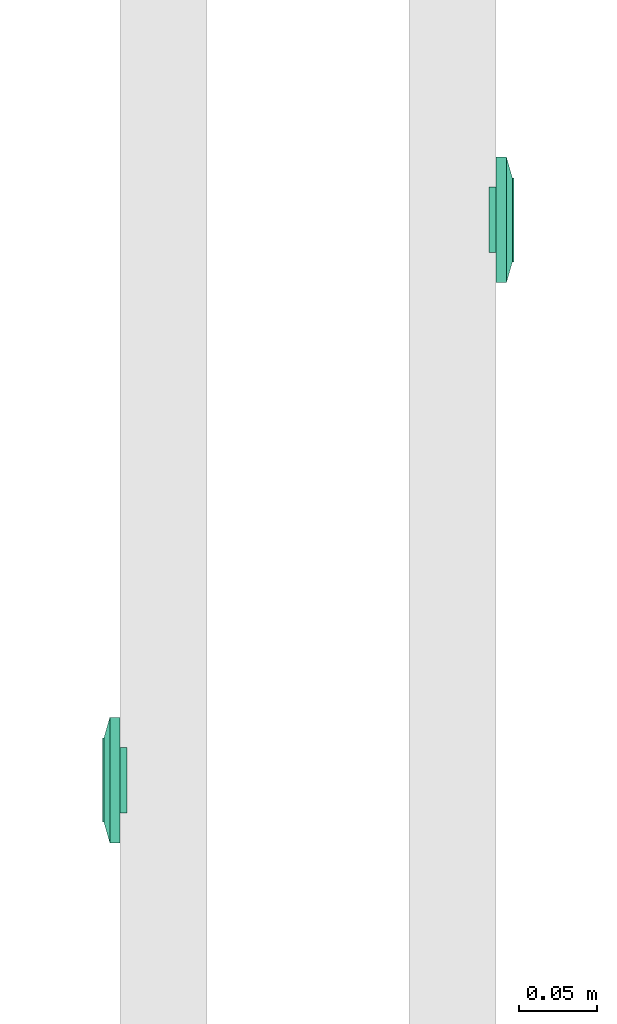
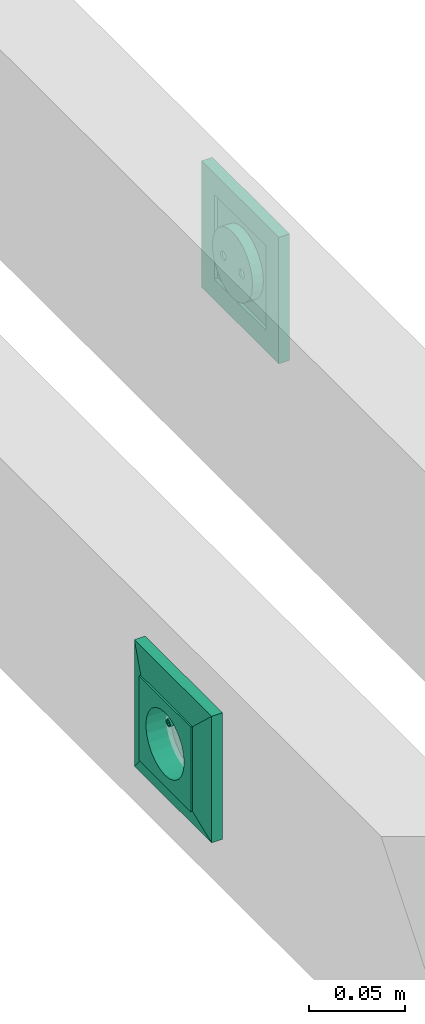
# One storey, part 54 of 166: 2 flow terminals.
"""IFC2X3 building model written with IfcOpenShell, lengths in metres."""

from ifc_helpers import new_model, entity, si_unit, converted_unit, derived_unit, direction, frame, origin, place, context, subcontext, project, spatial, face_set, surface_model, source, transform, mapped, type_object, type_shapes, element, save


model = new_model("IFC2X3")

# Units and contexts
model_context = context("Model", 3, precision=1e-05, world=origin(), true_north=direction((6.12303176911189e-17, 1.0)))
body_context = subcontext(model_context, "Body", "Model", "MODEL_VIEW")
ifc_project = project(units=[si_unit("LENGTHUNIT", "METRE"), si_unit("AREAUNIT", "SQUARE_METRE"), si_unit("VOLUMEUNIT", "CUBIC_METRE"), converted_unit("PLANEANGLEUNIT", "DEGREE", entity("IfcRatioMeasure", 0.0174532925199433), si_unit("PLANEANGLEUNIT", "RADIAN"), dimensions=[0, 0, 0, 0, 0, 0, 0]), si_unit("MASSUNIT", "GRAM", prefix="KILO"), derived_unit("MASSDENSITYUNIT", [(si_unit("MASSUNIT", "GRAM", prefix="KILO"), 1), (si_unit("LENGTHUNIT", "METRE"), -3)]), si_unit("TIMEUNIT", "SECOND"), si_unit("FREQUENCYUNIT", "HERTZ"), si_unit("THERMODYNAMICTEMPERATUREUNIT", "DEGREE_CELSIUS"), derived_unit("THERMALTRANSMITTANCEUNIT", [(si_unit("MASSUNIT", "GRAM", prefix="KILO"), 1), (si_unit("THERMODYNAMICTEMPERATUREUNIT", "KELVIN"), -1), (si_unit("TIMEUNIT", "SECOND"), -3)]), derived_unit("VOLUMETRICFLOWRATEUNIT", [(si_unit("LENGTHUNIT", "METRE"), 3), (si_unit("TIMEUNIT", "SECOND"), -1)]), si_unit("ELECTRICCURRENTUNIT", "AMPERE"), si_unit("ELECTRICVOLTAGEUNIT", "VOLT"), si_unit("POWERUNIT", "WATT"), si_unit("FORCEUNIT", "NEWTON"), si_unit("ILLUMINANCEUNIT", "LUX"), si_unit("LUMINOUSFLUXUNIT", "LUMEN"), si_unit("LUMINOUSINTENSITYUNIT", "CANDELA"), derived_unit("USERDEFINED", [(si_unit("MASSUNIT", "GRAM", prefix="KILO"), -1), (si_unit("LENGTHUNIT", "METRE"), -2), (si_unit("TIMEUNIT", "SECOND"), 3), (si_unit("LUMINOUSFLUXUNIT", "LUMEN"), 1)]), derived_unit("LINEARVELOCITYUNIT", [(si_unit("LENGTHUNIT", "METRE"), 1), (si_unit("TIMEUNIT", "SECOND"), -1)]), si_unit("PRESSUREUNIT", "PASCAL"), derived_unit("USERDEFINED", [(si_unit("LENGTHUNIT", "METRE"), -2), (si_unit("MASSUNIT", "GRAM", prefix="KILO"), 1), (si_unit("TIMEUNIT", "SECOND"), -2)])], contexts=[model_context])

# Site, building, storey
site_placement = place(None, origin())
site = spatial("IfcSite", under=ifc_project, at=site_placement, Name="Default", CompositionType="ELEMENT")
building_placement = place(site_placement, origin())
building = spatial("IfcBuilding", under=site, at=building_placement, CompositionType="ELEMENT")
storey_placement = place(building_placement, frame((0.0, 0.0, 4.27)))
storey = spatial("IfcBuildingStorey", under=building, at=storey_placement, Name="01", CompositionType="ELEMENT", Elevation=4.27)

# Flow terminals
light_fixture_type = type_object("IfcLightFixtureType", Name="PC IP20", PredefinedType="NOTDEFINED")
shared_shape = source(origin(), body_context, "Body", "SurfaceModel", [
    surface_model("IfcFaceBasedSurfaceModel", [(-0.00225000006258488, 0.0127499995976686, 0.00949633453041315), (0.0, 0.0104999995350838, 0.00949633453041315), (0.0, 0.0115376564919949, 0.0101656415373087), (0.0, 0.0139623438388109, 0.0101656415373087), (0.0, 0.0144589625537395, 0.00984531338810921), (0.0, 0.0121178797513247, 0.0102778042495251), (0.0, 0.0133821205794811, 0.0102778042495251), (0.0, 0.0127499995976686, 0.010399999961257), (0.0, 0.0149999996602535, 0.00949633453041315), (0.00225000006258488, 0.0127499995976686, 0.00949633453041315), (0.0, 0.0110410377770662, 0.00984531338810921), (0.0, 0.0127499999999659, 0.00949633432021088), (0.00225000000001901, 0.0127499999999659, 0.00949633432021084), (0.00217333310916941, 0.0121676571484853, 0.00949633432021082), (0.00194855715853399, 0.0116249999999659, 0.00949633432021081), (0.00159099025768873, 0.0111590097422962, 0.00949633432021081), (0.001125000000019, 0.010801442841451, 0.00949633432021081), (0.00058234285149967, 0.0105766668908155, 0.00949633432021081), (0.0, 0.0104999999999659, 0.00949633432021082), (-0.000582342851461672, 0.0105766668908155, 0.00949633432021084), (-0.001124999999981, 0.010801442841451, 0.00949633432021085), (-0.00159099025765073, 0.0111590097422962, 0.00949633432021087), (-0.00194855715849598, 0.011624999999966, 0.00949633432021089), (-0.0021733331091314, 0.0121676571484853, 0.00949633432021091), (-0.00224999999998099, 0.012749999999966, 0.00949633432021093), (-0.00217333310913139, 0.0133323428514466, 0.00949633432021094), (-0.00194855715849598, 0.013874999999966, 0.00949633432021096), (-0.00159099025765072, 0.0143409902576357, 0.00949633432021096), (-0.00112499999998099, 0.0146985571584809, 0.00949633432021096), (-0.00058234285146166, 0.0149233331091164, 0.00949633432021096), (0.0, 0.0149999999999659, 0.00949633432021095), (0.000582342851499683, 0.0149233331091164, 0.00949633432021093), (0.00112500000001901, 0.0146985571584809, 0.00949633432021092), (0.00159099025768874, 0.0143409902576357, 0.00949633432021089), (0.001948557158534, 0.0138749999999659, 0.00949633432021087), (0.00217333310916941, 0.0133323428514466, 0.00949633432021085), (0.00225000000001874, 0.0127499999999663, -0.00360000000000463), (0.00217333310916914, 0.0121676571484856, -0.00360000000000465), (0.00194855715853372, 0.0116249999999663, -0.00360000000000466), (0.00159099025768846, 0.0111590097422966, -0.00360000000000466), (0.00112500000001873, 0.0108014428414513, -0.00360000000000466), (0.000582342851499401, 0.0105766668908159, -0.00360000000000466), (0.0, 0.0104999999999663, -0.00360000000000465), (-0.000582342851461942, 0.0105766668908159, -0.00360000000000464), (-0.00112499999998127, 0.0108014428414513, -0.00360000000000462), (-0.001590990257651, 0.0111590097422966, -0.0036000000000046), (-0.00194855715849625, 0.0116249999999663, -0.00360000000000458), (-0.00217333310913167, 0.0121676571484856, -0.00360000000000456), (-0.00224999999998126, 0.0127499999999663, -0.00360000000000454), (-0.00217333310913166, 0.013332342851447, -0.00360000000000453), (-0.00194855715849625, 0.0138749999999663, -0.00360000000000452), (-0.00159099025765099, 0.014340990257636, -0.00360000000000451), (-0.00112499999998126, 0.0146985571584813, -0.00360000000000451), (-0.000582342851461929, 0.0149233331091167, -0.00360000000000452), (0.0, 0.0149999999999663, -0.00360000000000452), (0.000582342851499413, 0.0149233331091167, -0.00360000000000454), (0.00112500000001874, 0.0146985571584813, -0.00360000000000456), (0.00159099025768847, 0.014340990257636, -0.00360000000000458), (0.00194855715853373, 0.0138749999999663, -0.0036000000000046), (0.00217333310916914, 0.013332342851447, -0.00360000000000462), (0.0270000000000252, 0.026999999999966, 0.0113999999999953), (-0.0269999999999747, 0.026999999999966, 0.0113999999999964), (-0.0269999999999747, -0.0270000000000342, 0.0113999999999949), (0.0270000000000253, -0.0270000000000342, 0.0113999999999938), (-0.0199999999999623, 0.0, 0.0113999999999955), (-0.0193185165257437, -0.00517638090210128, 0.0113999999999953), (-0.0173205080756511, -0.0100000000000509, 0.0113999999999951), (-0.0141421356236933, -0.0141421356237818, 0.011399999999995), (-0.00999999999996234, -0.0173205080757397, 0.0113999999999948), (-0.00517638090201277, -0.0193185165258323, 0.0113999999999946), (0.0, -0.0200000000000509, 0.0113999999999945), (0.00517638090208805, -0.0193185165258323, 0.0113999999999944), (0.0100000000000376, -0.0173205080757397, 0.0113999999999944), (0.0141421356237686, -0.0141421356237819, 0.0113999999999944), (0.0173205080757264, -0.010000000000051, 0.0113999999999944), (0.0193185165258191, -0.00517638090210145, 0.0113999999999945), (0.0200000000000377, 0.0, 0.0113999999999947), (0.0193185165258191, 0.00517638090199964, 0.0113999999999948), (0.0173205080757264, 0.0099999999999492, 0.011399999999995), (0.0141421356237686, 0.0141421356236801, 0.0113999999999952), (0.0100000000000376, 0.0173205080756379, 0.0113999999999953), (0.00517638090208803, 0.0193185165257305, 0.0113999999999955), (0.0, 0.0199999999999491, 0.0113999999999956), (-0.00517638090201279, 0.0193185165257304, 0.0113999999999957), (-0.00999999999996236, 0.0173205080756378, 0.0113999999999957), (-0.0141421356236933, 0.01414213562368, 0.0113999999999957), (-0.0173205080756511, 0.00999999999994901, 0.0113999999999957), (-0.0193185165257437, 0.00517638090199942, 0.0113999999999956), (0.0270000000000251, 0.0269999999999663, 0.00199999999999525), (0.0270000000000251, -0.0270000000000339, 0.00199999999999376), (-0.0269999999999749, -0.0270000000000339, 0.00199999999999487), (-0.0269999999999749, 0.0269999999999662, 0.00199999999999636), (0.0210000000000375, 0.0, 0.00199999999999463), (0.0202844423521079, -0.00543519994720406, 0.00199999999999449), (0.0181865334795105, -0.0105000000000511, 0.0019999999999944), (0.0148492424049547, -0.0148492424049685, 0.00199999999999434), (0.0105000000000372, -0.0181865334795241, 0.00199999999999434), (0.0054351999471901, -0.0202844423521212, 0.00199999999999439), (0.0, -0.0210000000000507, 0.00199999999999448), (-0.00543519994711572, -0.020284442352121, 0.00199999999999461), (-0.0104999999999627, -0.0181865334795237, 0.00199999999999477), (-0.0148492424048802, -0.014849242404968, 0.00199999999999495), (-0.0181865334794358, -0.0105000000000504, 0.00199999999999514), (-0.020284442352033, -0.00543519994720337, 0.00199999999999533), (-0.0209999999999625, 0.0, 0.00199999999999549), (-0.0202844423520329, 0.0054351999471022, 0.00199999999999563), (-0.0181865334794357, 0.0104999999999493, 0.00199999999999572), (-0.01484924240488, 0.0148492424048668, 0.00199999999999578), (-0.0104999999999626, 0.0181865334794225, 0.00199999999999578), (-0.00543519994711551, 0.0202844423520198, 0.00199999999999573), (0.0, 0.0209999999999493, 0.00199999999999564), (0.00543519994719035, 0.0202844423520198, 0.00199999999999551), (0.0105000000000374, 0.0181865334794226, 0.00199999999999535), (0.0148492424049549, 0.0148492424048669, 0.00199999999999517), (0.0181865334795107, 0.0104999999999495, 0.00199999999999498), (0.0202844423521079, 0.00543519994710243, 0.00199999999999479), (0.0200000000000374, 0.0, -0.00360000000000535), (0.0193185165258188, -0.00517638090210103, -0.00360000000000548), (0.0173205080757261, -0.0100000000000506, -0.00360000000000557), (0.0141421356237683, -0.0141421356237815, -0.00360000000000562), (0.0100000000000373, -0.0173205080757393, -0.00360000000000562), (0.00517638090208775, -0.0193185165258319, -0.00360000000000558), (0.0, -0.0200000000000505, -0.00360000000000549), (-0.00517638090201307, -0.0193185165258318, -0.00360000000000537), (-0.00999999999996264, -0.0173205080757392, -0.00360000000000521), (-0.0141421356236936, -0.0141421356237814, -0.00360000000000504), (-0.0173205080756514, -0.0100000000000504, -0.00360000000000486), (-0.019318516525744, -0.00517638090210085, -0.00360000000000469), (-0.0199999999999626, 0.0, -0.00360000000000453), (-0.0193185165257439, 0.00517638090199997, -0.0036000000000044), (-0.0173205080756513, 0.00999999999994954, -0.00360000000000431), (-0.0141421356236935, 0.0141421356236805, -0.00360000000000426), (-0.00999999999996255, 0.0173205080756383, -0.00360000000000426), (-0.00517638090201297, 0.0193185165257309, -0.0036000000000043), (0.0, 0.0199999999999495, -0.00360000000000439), (0.00517638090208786, 0.0193185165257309, -0.00360000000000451), (0.0100000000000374, 0.0173205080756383, -0.00360000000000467), (0.0141421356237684, 0.0141421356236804, -0.00360000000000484), (0.0173205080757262, 0.0099999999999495, -0.00360000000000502), (0.0193185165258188, 0.00517638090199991, -0.00360000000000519), (-0.0123499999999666, 0.0, -0.00360000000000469), (-0.0122562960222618, -0.000711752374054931, -0.00360000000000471), (-0.0119815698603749, -0.00137500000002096, -0.00360000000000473), (-0.0115445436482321, -0.00194454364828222, -0.00360000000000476), (-0.0109749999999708, -0.00238156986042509, -0.00360000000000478), (-0.0103117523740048, -0.00265629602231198, -0.0036000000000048), (-0.00959999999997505, -0.00275000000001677, -0.00360000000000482), (-0.0088882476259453, -0.00265629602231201, -0.00360000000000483), (-0.00822499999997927, -0.00238156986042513, -0.00360000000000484), (-0.00765545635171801, -0.00194454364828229, -0.00360000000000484), (-0.00721843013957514, -0.00137500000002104, -0.00360000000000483), (-0.00694370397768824, -0.000711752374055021, -0.00360000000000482), (-0.00684999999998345, 0.0, -0.0036000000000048), (-0.00694370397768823, 0.000711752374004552, -0.00360000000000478), (-0.00721843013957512, 0.00137499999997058, -0.00360000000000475), (-0.00765545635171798, 0.00194454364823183, -0.00360000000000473), (-0.00822499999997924, 0.00238156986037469, -0.0036000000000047), (-0.00888824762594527, 0.00265629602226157, -0.00360000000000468), (-0.00959999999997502, 0.00274999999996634, -0.00360000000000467), (-0.0103117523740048, 0.00265629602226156, -0.00360000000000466), (-0.0109749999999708, 0.00238156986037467, -0.00360000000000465), (-0.011544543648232, 0.00194454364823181, -0.00360000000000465), (-0.0119815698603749, 0.00137499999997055, -0.00360000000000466), (-0.0122562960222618, 0.000711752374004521, -0.00360000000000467), (0.00685000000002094, 0.0, -0.00360000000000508), (0.0069437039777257, -0.00071175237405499, -0.0036000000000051), (0.00721843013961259, -0.00137500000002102, -0.00360000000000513), (0.00765545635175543, -0.00194454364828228, -0.00360000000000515), (0.00822500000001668, -0.00238156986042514, -0.00360000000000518), (0.00888824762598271, -0.00265629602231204, -0.0036000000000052), (0.00960000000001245, -0.00275000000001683, -0.00360000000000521), (0.0103117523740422, -0.00265629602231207, -0.00360000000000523), (0.0109750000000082, -0.00238156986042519, -0.00360000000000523), (0.0115445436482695, -0.00194454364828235, -0.00360000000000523), (0.0119815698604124, -0.0013750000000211, -0.00360000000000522), (0.0122562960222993, -0.00071175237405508, -0.00360000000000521), (0.012350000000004, 0.0, -0.00360000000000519), (0.0122562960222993, 0.000711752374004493, -0.00360000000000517), (0.0119815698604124, 0.00137499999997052, -0.00360000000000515), (0.0115445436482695, 0.00194454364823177, -0.00360000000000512), (0.0109750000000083, 0.00238156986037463, -0.0036000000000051), (0.0103117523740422, 0.00265629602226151, -0.00360000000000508), (0.00960000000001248, 0.00274999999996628, -0.00360000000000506), (0.00888824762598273, 0.0026562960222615, -0.00360000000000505), (0.0082250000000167, 0.00238156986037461, -0.00360000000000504), (0.00765545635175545, 0.00194454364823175, -0.00360000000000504), (0.0072184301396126, 0.00137499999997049, -0.00360000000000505), (0.00694370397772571, 0.000711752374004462, -0.00360000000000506), (0.0210000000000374, 0.0, -0.00460000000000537), (0.0202844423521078, -0.00543519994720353, -0.00460000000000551), (0.0181865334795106, -0.0105000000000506, -0.0046000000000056), (0.0148492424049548, -0.0148492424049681, -0.00460000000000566), (0.0105000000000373, -0.0181865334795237, -0.00460000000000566), (0.00543519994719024, -0.0202844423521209, -0.00460000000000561), (0.0, -0.0210000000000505, -0.00460000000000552), (-0.00543519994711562, -0.0202844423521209, -0.00460000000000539), (-0.0104999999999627, -0.0181865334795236, -0.00460000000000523), (-0.0148492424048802, -0.0148492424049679, -0.00460000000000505), (-0.0181865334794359, -0.0105000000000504, -0.00460000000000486), (-0.0202844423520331, -0.00543519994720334, -0.00460000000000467), (-0.0209999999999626, 0.0, -0.00460000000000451), (-0.020284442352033, 0.00543519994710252, -0.00460000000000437), (-0.0181865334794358, 0.0104999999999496, -0.00460000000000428), (-0.0148492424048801, 0.0148492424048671, -0.00460000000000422), (-0.0104999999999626, 0.0181865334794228, -0.00460000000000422), (-0.00543519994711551, 0.02028444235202, -0.00460000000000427), (0.0, 0.0209999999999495, -0.00460000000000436), (0.00543519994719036, 0.02028444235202, -0.00460000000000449), (0.0105000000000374, 0.0181865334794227, -0.00460000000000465), (0.0148492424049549, 0.014849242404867, -0.00460000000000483), (0.0181865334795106, 0.0104999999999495, -0.00460000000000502), (0.0202844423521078, 0.00543519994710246, -0.00460000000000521), (-0.00684999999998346, 0.0, -0.0046000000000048), (-0.00694370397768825, 0.000711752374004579, -0.00460000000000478), (-0.00721843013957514, 0.00137499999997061, -0.00460000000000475), (-0.007655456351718, 0.00194454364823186, -0.00460000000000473), (-0.00822499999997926, 0.00238156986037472, -0.0046000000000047), (-0.00888824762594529, 0.0026562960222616, -0.00460000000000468), (-0.00959999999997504, 0.00274999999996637, -0.00460000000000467), (-0.0103117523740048, 0.00265629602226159, -0.00460000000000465), (-0.0109749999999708, 0.0023815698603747, -0.00460000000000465), (-0.0115445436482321, 0.00194454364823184, -0.00460000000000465), (-0.0119815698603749, 0.00137499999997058, -0.00460000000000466), (-0.0122562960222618, 0.000711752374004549, -0.00460000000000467), (-0.0123499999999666, 0.0, -0.00460000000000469), (-0.0122562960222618, -0.000711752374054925, -0.00460000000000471), (-0.0119815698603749, -0.00137500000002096, -0.00460000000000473), (-0.0115445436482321, -0.00194454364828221, -0.00460000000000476), (-0.0109749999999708, -0.00238156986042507, -0.00460000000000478), (-0.0103117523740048, -0.00265629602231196, -0.0046000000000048), (-0.00959999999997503, -0.00275000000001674, -0.00460000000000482), (-0.00888824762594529, -0.00265629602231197, -0.00460000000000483), (-0.00822499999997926, -0.00238156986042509, -0.00460000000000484), (-0.007655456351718, -0.00194454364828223, -0.00460000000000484), (-0.00721843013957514, -0.00137500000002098, -0.00460000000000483), (-0.00694370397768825, -0.000711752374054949, -0.00460000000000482), (0.012350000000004, 0.0, -0.00460000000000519), (0.0122562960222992, 0.000711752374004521, -0.00460000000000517), (0.0119815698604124, 0.00137499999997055, -0.00460000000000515), (0.0115445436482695, 0.0019445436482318, -0.00460000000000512), (0.0109750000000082, 0.00238156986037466, -0.0046000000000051), (0.0103117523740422, 0.00265629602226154, -0.00460000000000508), (0.00960000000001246, 0.00274999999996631, -0.00460000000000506), (0.00888824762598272, 0.00265629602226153, -0.00460000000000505), (0.00822500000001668, 0.00238156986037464, -0.00460000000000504), (0.00765545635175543, 0.00194454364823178, -0.00460000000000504), (0.00721843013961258, 0.00137499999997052, -0.00460000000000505), (0.00694370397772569, 0.00071175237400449, -0.00460000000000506), (0.00685000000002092, 0.0, -0.00460000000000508), (0.00694370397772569, -0.000711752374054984, -0.0046000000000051), (0.00721843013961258, -0.00137500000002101, -0.00460000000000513), (0.00765545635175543, -0.00194454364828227, -0.00460000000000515), (0.00822500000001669, -0.00238156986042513, -0.00460000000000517), (0.00888824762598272, -0.00265629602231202, -0.0046000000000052), (0.00960000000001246, -0.0027500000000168, -0.00460000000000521), (0.0103117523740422, -0.00265629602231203, -0.00460000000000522), (0.0109750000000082, -0.00238156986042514, -0.00460000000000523), (0.0115445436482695, -0.00194454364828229, -0.00460000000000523), (0.0119815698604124, -0.00137500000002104, -0.00460000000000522), (0.0122562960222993, -0.000711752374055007, -0.00460000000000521), (0.040350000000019, 0.0403499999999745, 0.00659999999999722), (0.040350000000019, -0.0403500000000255, 0.00659999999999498), (-0.0403499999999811, -0.0403500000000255, 0.00659999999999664), (-0.0403499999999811, 0.0403499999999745, 0.00659999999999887), (0.027000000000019, 0.0269999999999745, 0.00659999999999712), (-0.0269999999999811, 0.0269999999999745, 0.00659999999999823), (-0.026999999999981, -0.0270000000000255, 0.00659999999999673), (0.027000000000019, -0.0270000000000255, 0.00659999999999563), (0.027000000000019, 0.0269999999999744, 0.0103999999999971), (-0.026999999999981, 0.0269999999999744, 0.0103999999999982), (-0.026999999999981, -0.0270000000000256, 0.0103999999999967), (0.027000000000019, -0.0270000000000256, 0.0103999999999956), (0.040350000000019, 0.0403499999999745, 0.00659999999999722), (0.040350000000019, -0.0403500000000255, 0.00659999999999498), (-0.0403499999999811, -0.0403500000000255, 0.00659999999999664), (-0.0403499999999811, 0.0403499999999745, 0.00659999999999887), (-0.0269999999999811, 0.0269999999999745, 0.00659999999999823), (-0.0269999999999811, -0.0270000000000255, 0.00659999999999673), (0.0270000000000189, -0.0270000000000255, 0.00659999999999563), (0.0270000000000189, 0.0269999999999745, 0.00659999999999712), (0.0403500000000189, 0.0403499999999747, 0.0), (0.0403500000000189, -0.0403500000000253, 0.0), (-0.0403499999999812, -0.0403500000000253, 0.0), (-0.0403499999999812, 0.0403499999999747, 0.0), (0.0270000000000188, 0.0269999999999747, 0.0), (-0.0269999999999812, 0.0269999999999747, 0.0), (-0.0269999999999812, -0.0270000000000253, 0.0), (0.0270000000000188, -0.0270000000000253, 0.0)], [face_set([[[0, 1, 2]], [[3, 4, 2, 5]], [[6, 3, 5, 7]], [[2, 4, 0]], [[4, 8, 0]], [[3, 9, 8]], [[1, 9, 10]], [[2, 3, 6, 7]], [[3, 10, 9]], [[2, 10, 3]], [[11, 1, 0, 8]], [[11, 8, 9, 1]]]), face_set([[[12, 13, 14, 15, 16, 17, 18, 19, 20, 21, 22, 23, 24, 25, 26, 27, 28, 29, 30, 31, 32, 33, 34, 35]], [[36, 37, 38, 39, 40, 41, 42, 43, 44, 45, 46, 47, 48, 49, 50, 51, 52, 53, 54, 55, 56, 57, 58, 59]], [[48, 47, 23, 24]], [[47, 46, 22, 23]], [[45, 44, 20, 21]], [[46, 45, 21, 22]], [[44, 43, 19, 20]], [[18, 19, 43, 42]], [[42, 41, 17, 18]], [[41, 40, 16, 17]], [[39, 38, 14, 15]], [[40, 39, 15, 16]], [[38, 37, 13, 14]], [[12, 13, 37, 36]], [[36, 59, 35, 12]], [[59, 58, 34, 35]], [[57, 56, 32, 33]], [[58, 57, 33, 34]], [[56, 55, 31, 32]], [[30, 31, 55, 54]], [[54, 53, 29, 30]], [[53, 52, 28, 29]], [[51, 50, 26, 27]], [[52, 51, 27, 28]], [[50, 49, 25, 26]], [[24, 25, 49, 48]]]), face_set([[[60, 61, 62, 63], [64, 65, 66, 67, 68, 69, 70, 71, 72, 73, 74, 75, 76, 77, 78, 79, 80, 81, 82, 83, 84, 85, 86, 87]], [[88, 89, 90, 91], [92, 93, 94, 95, 96, 97, 98, 99, 100, 101, 102, 103, 104, 105, 106, 107, 108, 109, 110, 111, 112, 113, 114, 115]], [[61, 60, 88, 91]], [[62, 61, 91, 90]], [[63, 62, 90, 89]], [[60, 63, 89, 88]], [[116, 117, 118, 119, 120, 121, 122, 123, 124, 125, 126, 127, 128, 129, 130, 131, 132, 133, 134, 135, 136, 137, 138, 139], [140, 141, 142, 143, 144, 145, 146, 147, 148, 149, 150, 151, 152, 153, 154, 155, 156, 157, 158, 159, 160, 161, 162, 163], [164, 165, 166, 167, 168, 169, 170, 171, 172, 173, 174, 175, 176, 177, 178, 179, 180, 181, 182, 183, 184, 185, 186, 187]], [[64, 128, 127, 65]], [[65, 127, 126, 66]], [[67, 125, 124, 68]], [[66, 126, 125, 67]], [[68, 124, 123, 69]], [[122, 70, 69, 123]], [[70, 122, 121, 71]], [[71, 121, 120, 72]], [[73, 119, 118, 74]], [[72, 120, 119, 73]], [[74, 118, 117, 75]], [[116, 76, 75, 117]], [[76, 116, 139, 77]], [[77, 139, 138, 78]], [[79, 137, 136, 80]], [[78, 138, 137, 79]], [[80, 136, 135, 81]], [[134, 82, 81, 135]], [[82, 134, 133, 83]], [[83, 133, 132, 84]], [[84, 132, 131, 85]], [[85, 131, 130, 86]], [[130, 129, 87, 86]], [[64, 87, 129, 128]], [[188, 189, 190, 191, 192, 193, 194, 195, 196, 197, 198, 199, 200, 201, 202, 203, 204, 205, 206, 207, 208, 209, 210, 211], [212, 213, 214, 215, 216, 217, 218, 219, 220, 221, 222, 223, 224, 225, 226, 227, 228, 229, 230, 231, 232, 233, 234, 235], [236, 237, 238, 239, 240, 241, 242, 243, 244, 245, 246, 247, 248, 249, 250, 251, 252, 253, 254, 255, 256, 257, 258, 259]], [[200, 199, 103, 104]], [[199, 198, 102, 103]], [[197, 196, 100, 101]], [[198, 197, 101, 102]], [[196, 195, 99, 100]], [[98, 99, 195, 194]], [[194, 193, 97, 98]], [[193, 192, 96, 97]], [[191, 190, 94, 95]], [[192, 191, 95, 96]], [[190, 189, 93, 94]], [[92, 93, 189, 188]], [[188, 211, 115, 92]], [[211, 210, 114, 115]], [[209, 208, 112, 113]], [[210, 209, 113, 114]], [[208, 207, 111, 112]], [[110, 111, 207, 206]], [[206, 205, 109, 110]], [[205, 204, 108, 109]], [[203, 202, 106, 107]], [[204, 203, 107, 108]], [[202, 201, 105, 106]], [[104, 105, 201, 200]], [[141, 225, 226, 142]], [[140, 224, 225, 141]], [[144, 228, 229, 145]], [[143, 227, 228, 144]], [[142, 226, 227, 143]], [[230, 146, 145, 229]], [[149, 233, 232, 148]], [[148, 232, 231, 147]], [[152, 212, 235, 151]], [[151, 235, 234, 150]], [[150, 234, 233, 149]], [[146, 230, 231, 147]], [[154, 214, 213, 153]], [[153, 213, 212, 152]], [[157, 217, 216, 156]], [[156, 216, 215, 155]], [[155, 215, 214, 154]], [[218, 158, 157, 217]], [[160, 220, 221, 161]], [[159, 219, 220, 160]], [[163, 223, 224, 140]], [[162, 222, 223, 163]], [[161, 221, 222, 162]], [[158, 218, 219, 159]], [[166, 250, 249, 165]], [[165, 249, 248, 164]], [[169, 253, 252, 168]], [[168, 252, 251, 167]], [[167, 251, 250, 166]], [[254, 170, 169, 253]], [[172, 256, 257, 173]], [[171, 255, 256, 172]], [[175, 259, 236, 176]], [[174, 258, 259, 175]], [[173, 257, 258, 174]], [[170, 254, 255, 171]], [[177, 237, 238, 178]], [[176, 236, 237, 177]], [[180, 240, 241, 181]], [[179, 239, 240, 180]], [[178, 238, 239, 179]], [[242, 182, 181, 241]], [[185, 245, 244, 184]], [[184, 244, 243, 183]], [[164, 248, 247, 187]], [[187, 247, 246, 186]], [[186, 246, 245, 185]], [[182, 242, 243, 183]]]), face_set([[[260, 261, 262, 263], [264, 265, 266, 267]], [[260, 268, 269, 263]], [[263, 269, 270, 262]], [[262, 270, 271, 261]], [[261, 271, 268, 260]], [[264, 265, 269, 268]], [[265, 266, 270, 269]], [[266, 267, 271, 270]], [[268, 271, 267, 264]]]), face_set([[[272, 273, 274, 275], [276, 277, 278, 279]], [[280, 281, 282, 283], [284, 285, 286, 287]], [[275, 272, 280, 283]], [[274, 275, 283, 282]], [[273, 274, 282, 281]], [[272, 273, 281, 280]], [[284, 285, 276, 279]], [[285, 286, 277, 276]], [[286, 287, 278, 277]], [[279, 278, 287, 284]]])]),
])
type_shapes(light_fixture_type, [shared_shape])
for number, where, z_axis, x_axis in (
    (1, (33.3667436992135, -187.72806962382, 4.70800000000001), (-1.0, 0.0, 0.0), (0.0, -1.0, 0.0)),
    (2, (33.6087436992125, -187.367663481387, 4.70800000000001), (1.0, 0.0, 0.0), (0.0, 1.0, 0.0)),
):
    element("IfcFlowTerminal", number, at=place(building_placement, frame(where, z_axis=z_axis, x_axis=x_axis)), inside=storey, type_object=light_fixture_type, Name="INT Prise de courant:PC IP20", ObjectType="INT Prise de courant:PC IP20", context=body_context, shape_type="MappedRepresentation", body=[
        mapped(shared_shape, transform((0.0, 0.0, 0.0), scale=1.0)),
    ])

save(model, "model.ifc")
